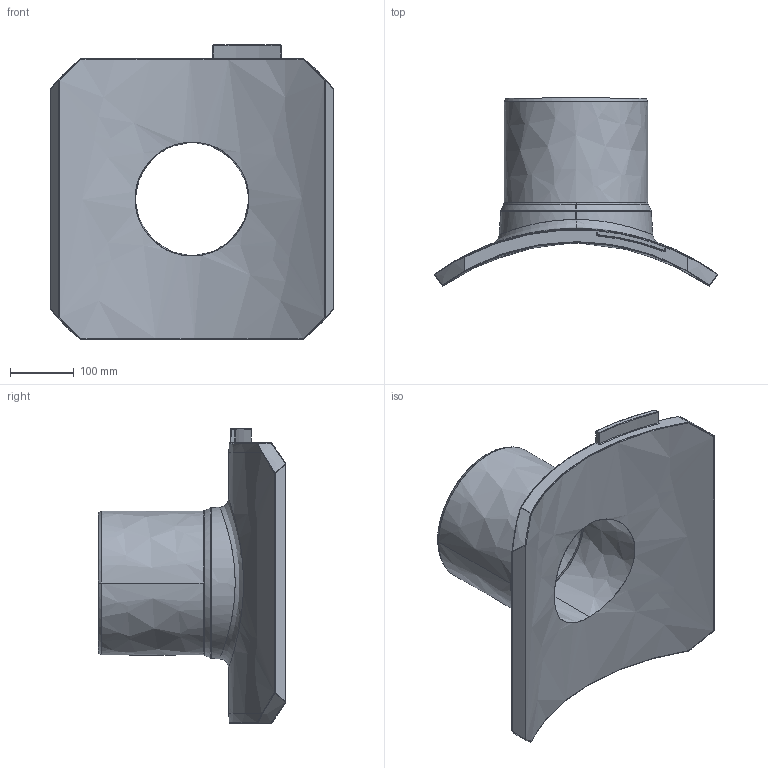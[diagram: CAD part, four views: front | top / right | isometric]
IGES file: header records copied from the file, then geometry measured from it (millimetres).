
Start section:  PTC IGES file: sa-uni_d710_225_01.igs
Global section: file name: sa-uni_d710_225_01.igs; native system: Creo Parametric by PTC Inc.; preprocessor: 2022124; author: mikulicp; organization: Unknown; date: 20240701.113016; units: millimetre
Bounding box: 442.3 x 293.37 x 460 mm (x, y, z)
Surface area: 659846.5 mm2 (no closed solid volume)
Topology: 0 solids, 0 shells, 235 faces, 1138 edges, 1138 vertices
Faces by surface type: bspline 235
